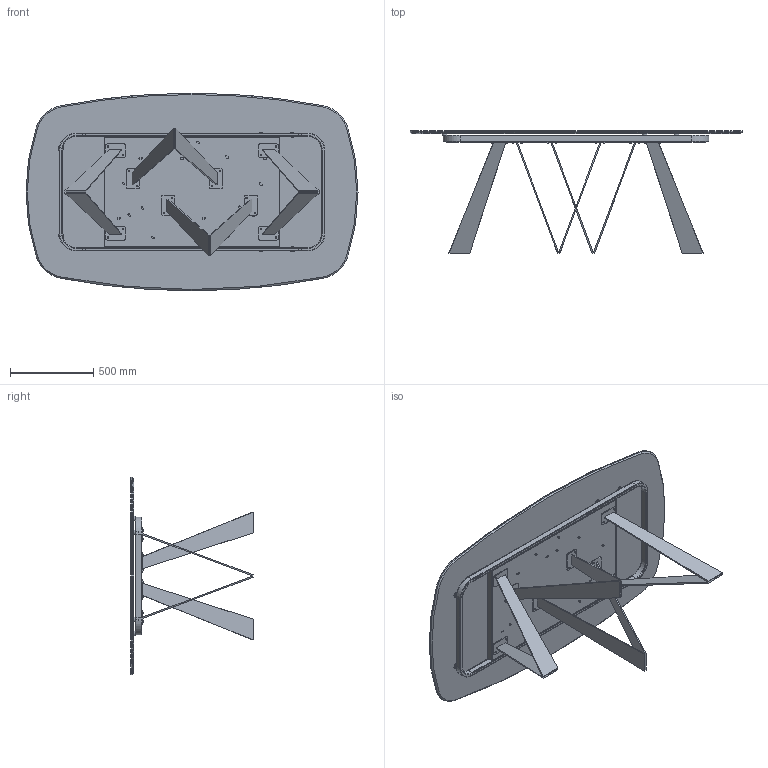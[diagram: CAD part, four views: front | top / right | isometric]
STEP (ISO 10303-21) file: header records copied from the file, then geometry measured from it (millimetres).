
FILE_DESCRIPTION (( 'STEP AP203' ), '1' );
FILE_NAME ('NO40C_Noa_200x119x75h_Ceramic Shaped.STEP', '2024-08-07T14:33:20', ( '' ), ( '' ), 'SwSTEP 2.0', 'SolidWorks 2022', '' );
FILE_SCHEMA (( 'CONFIG_CONTROL_DESIGN' ));
Length unit declared in the file: millimetre
Products named in the file (14): NO40C_Noa_200x119x75h_Ceramic Shaped; MAPPA; NOA000000-00-NOA BASE GREZZA; Assieme NOA var 3_noa 200-240; rondella M8_8X16; TTAV06_01-01-STRUTTURA X TAVOLI PLAI ONDA NOA 240_Default<A macchina>; NOA000001GMB-00-Piastra Principale gamba NOA_Piatto DX; M8xXXmm_M8x16mm; K4XCMXX-00-Piani Sagomati in ceramica_2000 x 1190; 434070-00-PIEDINO TPV GOMMA NERO D. 30x8max18; NOA000001GMB-00-Piastra Principale gamba NOA_Piatto SX; TTAV06_02-01-VASSOIO TAVOLI PLAI ONDA NOA 240; TTAV06-01-TELAIO X TAVOLI PLAI ONDA NOA 240cm_TTAV06; NOA000001PTRS-00-Piastra rettangoalre con fori
Assembly tree (51 placements, depth 4):
  NO40C_Noa_200x119x75h_Ceramic Shaped
    K4XCMXX-00-Piani Sagomati in ceramica_2000 x 1190
    Assieme NOA var 3_noa 200-240
      NOA000000-00-NOA BASE GREZZA  x4
        NOA000001GMB-00-Piastra Principale gamba NOA_Piatto SX
        NOA000001GMB-00-Piastra Principale gamba NOA_Piatto DX
        NOA000001PTRS-00-Piastra rettangoalre con fori
      TTAV06-01-TELAIO X TAVOLI PLAI ONDA NOA 240cm_TTAV06
        TTAV06_02-01-VASSOIO TAVOLI PLAI ONDA NOA 240
        TTAV06_01-01-STRUTTURA X TAVOLI PLAI ONDA NOA 240_Default<A macchina>
    M8xXXmm_M8x16mm  x16
    rondella M8_8X16  x16
    434070-00-PIEDINO TPV GOMMA NERO D. 30x8max18  x6
  MAPPA
Bounding box: 2000 x 735.8 x 1190 mm (x, y, z)
Volume: 43382868.1 mm3; surface area: 12704861.5 mm2
Topology: 71 solids, 71 shells, 1497 faces, 3421 edges, 2050 vertices
Faces by surface type: plane 586, cylinder 398, cone 265, torus 248
Entity records: 20807 total; most frequent: DIRECTION 3422, CARTESIAN_POINT 3151, ORIENTED_EDGE 2990, EDGE_CURVE 1495, AXIS2_PLACEMENT_3D 1291, VERTEX_POINT 934, VECTOR 840, LINE 840
